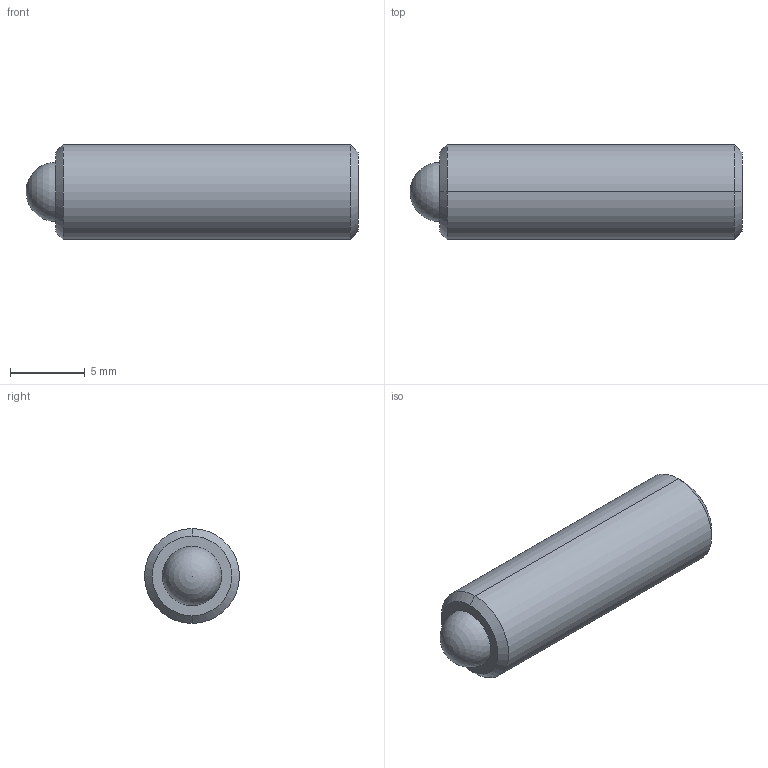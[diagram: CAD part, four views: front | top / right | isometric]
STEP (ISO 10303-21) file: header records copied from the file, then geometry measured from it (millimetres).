
FILE_DESCRIPTION (( 'STEP AP214' ), '1' );
FILE_NAME ('TS250-80-875.STEP', '2013-02-11T17:30:48', ( 'workpc' ), ( 'Microsoft' ), 'SwSTEP 2.0', 'SolidWorks 2013', '' );
FILE_SCHEMA (( 'AUTOMOTIVE_DESIGN' ));
Length unit declared in the file: inch
Products named in the file (1): TS250-80-875
Bounding box: 22.23 x 6.35 x 6.35 mm (x, y, z)
Volume: 633.2 mm3; surface area: 547.6 mm2
Topology: 2 solids, 2 shells, 20 faces, 45 edges, 29 vertices
Faces by surface type: plane 10, cylinder 4, cone 4, sphere 2
Entity records: 599 total; most frequent: DIRECTION 96, CARTESIAN_POINT 87, ORIENTED_EDGE 80, EDGE_CURVE 40, AXIS2_PLACEMENT_3D 35, LINE 26, VERTEX_POINT 26, VECTOR 26
